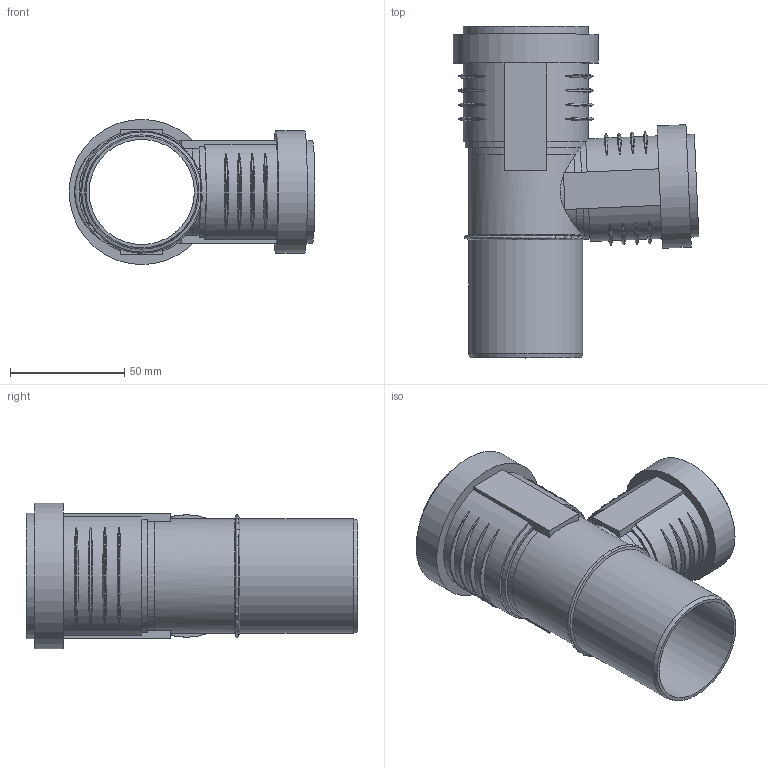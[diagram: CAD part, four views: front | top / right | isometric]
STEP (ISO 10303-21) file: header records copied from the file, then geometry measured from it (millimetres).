
FILE_DESCRIPTION(/* description */ (''),/* implementation_level */ '2;1');
FILE_NAME(/* name */ 'Z:\Geberit\Export\NewStep\390247.stp',/* time_stamp */ '2014-04-02T08:10:28+02:00',/* author */ ('ML'),/* organization */ (''),/* preprocessor_version */ 'ST-DEVELOPER v15.2',/* originating_system */ 'Autodesk Inventor 2014',/* authorisation */ '');
FILE_SCHEMA (('AUTOMOTIVE_DESIGN { 1 0 10303 214 3 1 1 }'));
Length unit declared in the file: millimetre
Products named in the file (4): 861351; 861400; 861401; 390247
Bounding box: 107.73 x 145.5 x 63.7 mm (x, y, z)
Volume: 71976.8 mm3; surface area: 72745.1 mm2
Topology: 3 solids, 3 shells, 131 faces, 328 edges, 227 vertices
Faces by surface type: torus 50, plane 38, cylinder 36, cone 7
Full cylindrical faces by diameter (mm): 36.15 x2, 40.15 x1, 41 x2, 45 x1, 46.15 x2, 49.7 x1, 50.15 x2, 51 x2, 53.7 x1, 55 x1, 59.7 x1, 63.7 x1
Entity records: 5242 total; most frequent: CARTESIAN_POINT 2130, ORIENTED_EDGE 588, DIRECTION 567, EDGE_CURVE 294, AXIS2_PLACEMENT_3D 247, VERTEX_POINT 218, EDGE_LOOP 188, ADVANCED_FACE 131
